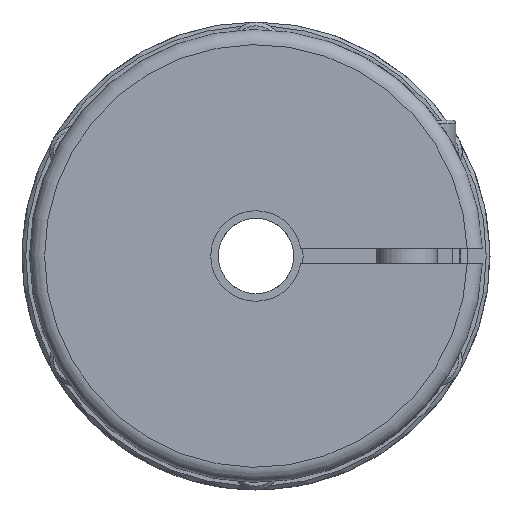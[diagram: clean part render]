
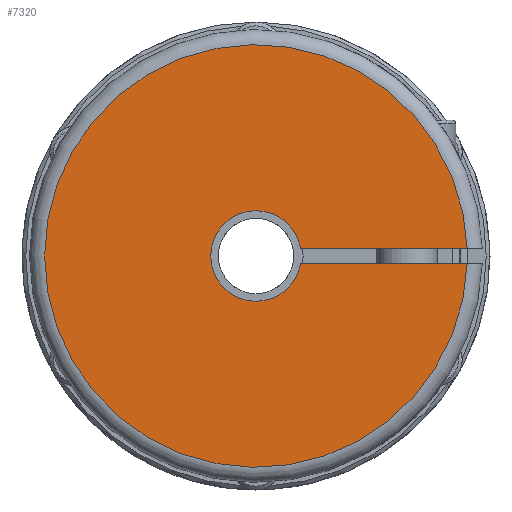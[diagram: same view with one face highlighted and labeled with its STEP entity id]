
A CAD part, left-side view. The second image highlights one B-rep face of the part: STEP entity #7320.
In plain terms, the highlighted planar face has unit normal (-1, 0, 0).
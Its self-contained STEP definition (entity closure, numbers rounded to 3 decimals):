
#249=PLANE('',#7822);
#544=LINE('',#11963,#846);
#545=LINE('',#11967,#847);
#846=VECTOR('',#9064,1000.);
#847=VECTOR('',#9067,1000.);
#1151=CIRCLE('',#7786,28.);
#1176=CIRCLE('',#7823,6.);
#2570=ORIENTED_EDGE('',*,*,#3487,.F.);
#2571=ORIENTED_EDGE('',*,*,#3488,.T.);
#2572=ORIENTED_EDGE('',*,*,#3489,.F.);
#2573=ORIENTED_EDGE('',*,*,#3445,.T.);
#3445=EDGE_CURVE('',#4012,#4011,#1151,.T.);
#3487=EDGE_CURVE('',#4041,#4011,#544,.T.);
#3488=EDGE_CURVE('',#4041,#4042,#1176,.T.);
#3489=EDGE_CURVE('',#4012,#4042,#545,.T.);
#4011=VERTEX_POINT('',#11875);
#4012=VERTEX_POINT('',#11877);
#4041=VERTEX_POINT('',#11964);
#4042=VERTEX_POINT('',#11966);
#4660=EDGE_LOOP('',(#2570,#2571,#2572,#2573));
#5080=FACE_BOUND('',#4660,.T.);
#7320=ADVANCED_FACE('',(#5080),#249,.T.);
#7786=AXIS2_PLACEMENT_3D('',#11876,#8974,#8975);
#7822=AXIS2_PLACEMENT_3D('',#11962,#9062,#9063);
#7823=AXIS2_PLACEMENT_3D('',#11965,#9065,#9066);
#8974=DIRECTION('',(-1.,0.,0.));
#8975=DIRECTION('',(0.,0.,1.));
#9062=DIRECTION('',(-1.,0.,0.));
#9063=DIRECTION('',(0.,0.,1.));
#9064=DIRECTION('',(0.,-1.,0.));
#9065=DIRECTION('',(1.,0.,0.));
#9066=DIRECTION('',(0.,-1.,0.));
#9067=DIRECTION('',(0.,1.,0.));
#11875=CARTESIAN_POINT('',(0.,-27.982,-1.));
#11876=CARTESIAN_POINT('',(0.,0.,0.));
#11877=CARTESIAN_POINT('',(0.,-27.982,1.));
#11962=CARTESIAN_POINT('',(0.,0.,0.));
#11963=CARTESIAN_POINT('',(0.,-1.137,-1.));
#11964=CARTESIAN_POINT('',(0.,-5.916,-1.));
#11965=CARTESIAN_POINT('',(0.,0.,0.));
#11966=CARTESIAN_POINT('',(0.,-5.916,1.));
#11967=CARTESIAN_POINT('',(0.,-39.211,1.));
